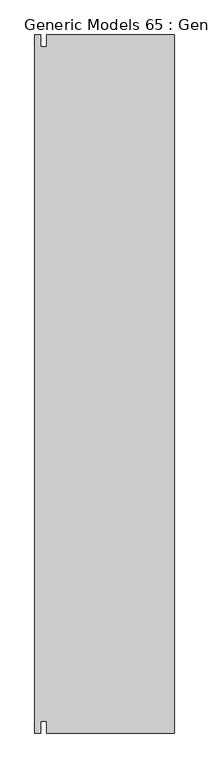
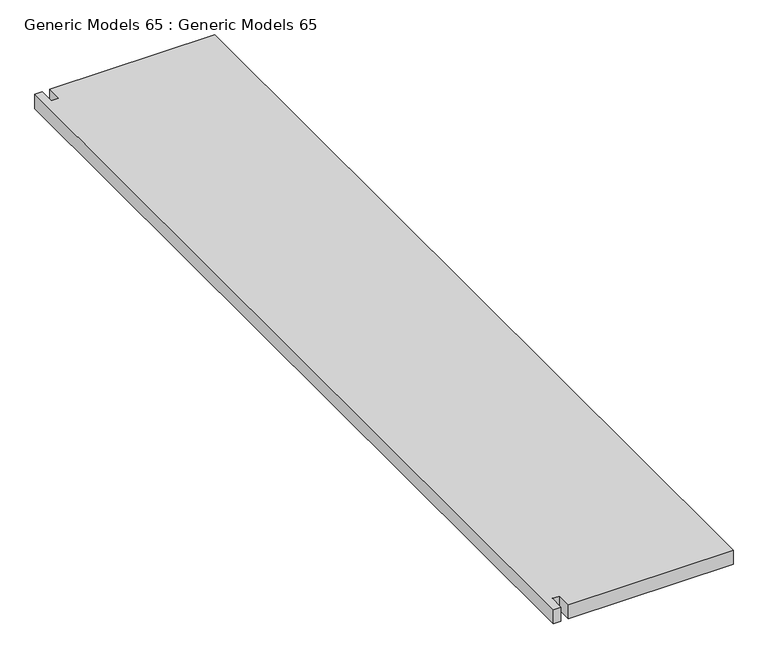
"""IFC4 building model written with IfcOpenShell, lengths in millimetres: proxy geometry, Generic Models 65 : Generic Models 65."""

import ifcopenshell
import ifcopenshell.guid

model = None  # the IFC model being written
_history = None  # IfcOwnerHistory: only IFC2X3 demands one
_inside = {}  # id of a spatial element -> (the spatial element, [elements in it])
_under = {}  # id of a project, library or spatial element -> (it, [spatial elements below it])
_declared = {}  # id of a project -> (the project, [libraries it declares])
_typed = {}  # id of a type object -> (the type object, [elements of that type])
_made_of = {}  # id of a material, layer set ... -> (it, [elements and type objects made of it])


def new_model(schema):
    """Start an empty IFC model of exactly this schema.

    Asked for "IFC4X3", IfcOpenShell would pick the latest addendum, in which some entities
    have other attributes; the version numbers below select the first issue.
    IFC2X3 requires an IfcOwnerHistory on every rooted entity: one is made here for all.
    """
    global model, _history
    if schema == "IFC4X3":
        model = ifcopenshell.file(schema_version=(4, 3, 0, 0))
    else:
        model = ifcopenshell.file(schema=schema)
    _inside.clear()
    _under.clear()
    _declared.clear()
    _typed.clear()
    _made_of.clear()
    _history = None
    if model.schema == "IFC2X3":
        org = make("IfcOrganization", Name="unknown")
        user = make(
            "IfcPersonAndOrganization",
            ThePerson=make("IfcPerson", FamilyName="unknown"),
            TheOrganization=org,
        )
        app = make(
            "IfcApplication",
            ApplicationDeveloper=org,
            Version="unknown",
            ApplicationFullName="unknown",
            ApplicationIdentifier="unknown",
        )
        _history = make(
            "IfcOwnerHistory",
            OwningUser=user,
            OwningApplication=app,
            ChangeAction="ADDED",
            CreationDate=0,
        )
    return model


def make(cls, **values):
    """One entity of the class cls with the attributes given. An attribute that is None is left unset."""
    return model.create_entity(
        cls, **{name: value for name, value in values.items() if value is not None}
    )


def rooted(cls, **values):
    """An entity with a GlobalId (a new one), such as an element, a storey or a relation."""
    return make(cls, GlobalId=ifcopenshell.guid.new(), OwnerHistory=_history, **values)


def si_unit(unit_type, name, prefix=None):
    """IfcSIUnit, for example si_unit("LENGTHUNIT", "METRE", prefix="MILLI")."""
    return make("IfcSIUnit", UnitType=unit_type, Prefix=prefix, Name=name)


def assignment(units):
    """IfcUnitAssignment: the units of a project."""
    return None if units is None else make("IfcUnitAssignment", Units=units)


def point(xyz):
    """IfcCartesianPoint."""
    return None if xyz is None else make("IfcCartesianPoint", Coordinates=xyz)


def direction(xyz):
    """IfcDirection."""
    return None if xyz is None else make("IfcDirection", DirectionRatios=xyz)


def frame(location, z_axis=None, x_axis=None):
    """IfcAxis2Placement3D, a coordinate frame: its origin and axes. An axis left out is left unset."""
    return make(
        "IfcAxis2Placement3D",
        Location=point(location),
        Axis=direction(z_axis),
        RefDirection=direction(x_axis),
    )


def origin():
    """The frame at (0, 0, 0) with its axes left unset."""
    return frame((0.0, 0.0, 0.0))


def place(relative_to, where):
    """IfcLocalPlacement: puts the frame where relative to a parent placement (None: the world)."""
    return make(
        "IfcLocalPlacement", PlacementRelTo=relative_to, RelativePlacement=where
    )


def context(
    kind, dimensions, precision=None, world=None, true_north=None, identifier=None
):
    """IfcGeometricRepresentationContext, for example the 3D "Model" context."""
    return make(
        "IfcGeometricRepresentationContext",
        ContextIdentifier=identifier,
        ContextType=kind,
        CoordinateSpaceDimension=dimensions,
        Precision=precision,
        WorldCoordinateSystem=world,
        TrueNorth=true_north,
    )


def project(units=None, contexts=None):
    """IfcProject with its units and contexts."""
    return rooted(
        "IfcProject",
        Name="project",
        RepresentationContexts=contexts,
        UnitsInContext=assignment(units),
    )


def spatial(cls, under=None, at=None, **own):
    """A site, building, storey or space (cls), placed at a placement, below another one or the project."""
    s = rooted(cls, ObjectPlacement=at, **own)
    if under is not None:
        _under.setdefault(under.id(), (under, []))[1].append(s)
    return s


def faces_of(points, faces, orient=None, outer=None):
    """IfcFace entities. A face is a list of loops; a loop is a list of indices into points, from 0.

    orient and outer hold one flag for each loop. By default every Orientation is true, the
    first loop of a face is its IfcFaceOuterBound and the others are IfcFaceBound.
    """
    made = []
    for i, loops in enumerate(faces):
        bounds = []
        for j, loop in enumerate(loops):
            is_outer = j == 0 if outer is None else outer[i][j]
            bounds.append(
                make(
                    "IfcFaceOuterBound" if is_outer else "IfcFaceBound",
                    Bound=make("IfcPolyLoop", Polygon=[points[k] for k in loop]),
                    Orientation=True if orient is None else orient[i][j],
                )
            )
        made.append(make("IfcFace", Bounds=bounds))
    return made


def faceted_brep(points, faces, orient=None, outer=None, voids=None):
    """IfcFacetedBrep: a solid bounded by flat faces; with voids (closed shells), ...WithVoids."""
    shared = [point(p) for p in points]
    hull = make("IfcClosedShell", CfsFaces=faces_of(shared, faces, orient, outer))
    if voids is None:
        return make("IfcFacetedBrep", Outer=hull)
    return make(
        "IfcFacetedBrepWithVoids",
        Outer=hull,
        Voids=[
            make(cls, CfsFaces=faces_of(shared, fs, o, b)) for cls, fs, o, b in voids
        ],
    )


def shape(context_of_items, identifier, shape_type, items):
    """IfcShapeRepresentation: the items that make up one representation, for example the "Body"."""
    return make(
        "IfcShapeRepresentation",
        ContextOfItems=context_of_items,
        RepresentationIdentifier=identifier,
        RepresentationType=shape_type,
        Items=items,
    )


def source(mapping_origin, context_of_items, identifier, shape_type, items):
    """IfcRepresentationMap: a shape defined once, which mapped items show again and again."""
    return make(
        "IfcRepresentationMap",
        MappingOrigin=mapping_origin,
        MappedRepresentation=shape(context_of_items, identifier, shape_type, items),
    )


def transform(
    local_origin,
    x_axis=None,
    y_axis=None,
    z_axis=None,
    scale=None,
    scale2=None,
    scale3=None,
    uniform=True,
):
    """IfcCartesianTransformationOperator3D, or its non-uniform kind. x_axis, y_axis, z_axis: its Axis1, 2, 3."""
    if uniform:
        return make(
            "IfcCartesianTransformationOperator3D",
            Axis1=direction(x_axis),
            Axis2=direction(y_axis),
            LocalOrigin=point(local_origin),
            Scale=scale,
            Axis3=direction(z_axis),
        )
    return make(
        "IfcCartesianTransformationOperator3DnonUniform",
        Axis1=direction(x_axis),
        Axis2=direction(y_axis),
        LocalOrigin=point(local_origin),
        Scale=scale,
        Axis3=direction(z_axis),
        Scale2=scale2,
        Scale3=scale3,
    )


def mapped(mapping_source, mapping_target):
    """IfcMappedItem: shows the shape of a source again, moved by a transform."""
    return make(
        "IfcMappedItem", MappingSource=mapping_source, MappingTarget=mapping_target
    )


def made_of(thing, what):
    """Note that an element or type object is made of a material, layer set ...; save() writes the relation."""
    if what is not None:
        _made_of.setdefault(what.id(), (what, []))[1].append(thing)
    return thing


def element(
    cls,
    number,
    at=None,
    inside=None,
    cuts=None,
    type_object=None,
    material=None,
    context=None,
    identifier="Body",
    shape_type=None,
    held_by="IfcProductDefinitionShape",
    body=None,
    shapes=None,
    **own,
):
    """One element of the class cls, such as IfcWall. Its Tag is "e" and its number.

    at: its placement. inside: the storey or other place that contains it. cuts: it is an
    opening in that element (IfcRelVoidsElement). A single representation is given by context,
    identifier, shape_type and body (its items); several are given by shapes. held_by: the class
    of the entity that holds the representations. save() writes the other relations.
    """
    e = rooted(cls, Tag="e%d" % number, ObjectPlacement=at, **own)
    if body is not None:
        shapes = [shape(context, identifier, shape_type, body)]
    if shapes is not None:
        e.Representation = make(held_by, Representations=shapes)
    if inside is not None:
        _inside.setdefault(inside.id(), (inside, []))[1].append(e)
    if cuts is not None:
        rooted(
            "IfcRelVoidsElement", RelatingBuildingElement=cuts, RelatedOpeningElement=e
        )
    if type_object is not None:
        _typed.setdefault(type_object.id(), (type_object, []))[1].append(e)
    return made_of(e, material)


def aggregate(whole, parts):
    """IfcRelAggregates: a whole, such as a stair, and the parts it consists of."""
    return rooted("IfcRelAggregates", RelatingObject=whole, RelatedObjects=parts)


def save(model, path):
    """Write the relations noted so far, then the file.

    IfcRelAggregates (storeys below a building ...), IfcRelContainedInSpatialStructure (elements
    in a storey), IfcRelDefinesByType, IfcRelAssociatesMaterial and IfcRelDeclares: one each for
    every whole, place, type object, material and project.
    """
    for whole, parts in _under.values():
        aggregate(whole, parts)
    for where, things in _inside.values():
        rooted(
            "IfcRelContainedInSpatialStructure",
            RelatedElements=things,
            RelatingStructure=where,
        )
    for kind, things in _typed.values():
        rooted("IfcRelDefinesByType", RelatedObjects=things, RelatingType=kind)
    for what, things in _made_of.values():
        rooted("IfcRelAssociatesMaterial", RelatedObjects=things, RelatingMaterial=what)
    for by, libraries in _declared.values():
        rooted("IfcRelDeclares", RelatingContext=by, RelatedDefinitions=libraries)
    model.write(path)


def generic_models_65_generic_models_65_03acef7a(model_context):
    return source(origin(), model_context, "Body", "Brep", [
        faceted_brep([(3797.3, 2514.6, 4343.4), (3797.3, 990.6, 4343.4), (3810.0, 990.6, 4343.4), (3810.0, 1016.0, 4343.4), (3822.7, 1016.0, 4343.4), (3822.7, 990.6, 4343.4), (4102.1, 990.6, 4343.4), (4102.1, 1016.0, 4343.4), (4102.1, 2489.2, 4343.4), (4102.1, 2514.6, 4343.4), (3822.7, 2514.6, 4343.4), (3822.7, 2489.2, 4343.4), (3810.0, 2489.2, 4343.4), (3810.0, 2514.6, 4343.4), (4102.1, 2514.6, 4318.0), (4102.1, 990.6, 4318.0), (3822.7, 990.6, 4318.0), (3822.7, 1016.0, 4318.0), (3810.0, 1016.0, 4318.0), (3810.0, 990.6, 4318.0), (3797.3, 990.6, 4318.0), (3797.3, 2514.6, 4318.0), (3810.0, 2514.6, 4318.0), (3810.0, 2489.2, 4318.0), (3822.7, 2489.2, 4318.0), (3822.7, 2514.6, 4318.0)], [[[0, 1, 2, 3, 4, 5, 6, 7, 8, 9, 10, 11, 12, 13]], [[14, 15, 16, 17, 18, 19, 20, 21, 22, 23, 24, 25]], [[9, 14, 25, 10]], [[1, 0, 21, 20]], [[1, 20, 19, 2]], [[9, 8, 7, 6, 15, 14]], [[4, 17, 16, 5]], [[18, 3, 2, 19]], [[17, 4, 3, 18]], [[15, 6, 5, 16]], [[12, 23, 22, 13]], [[24, 11, 10, 25]], [[23, 12, 11, 24]], [[21, 0, 13, 22]]]),
    ])


if __name__ == "__main__":
    model = new_model("IFC4")
    model_context = context("Model", 3, world=origin())
    ifc_project = project(units=[si_unit("LENGTHUNIT", "METRE", prefix="MILLI")], contexts=[model_context])
    site = spatial("IfcSite", under=ifc_project)
    building = spatial("IfcBuilding", under=site)
    placement = place(None, origin())
    generic_models_65_generic_models_65_shape = generic_models_65_generic_models_65_03acef7a(model_context)
    element("IfcBuildingElementProxy", 1, Name="Generic Models 65 : Generic Models 65", ObjectType="Generic Models 65 : Generic Models 65", at=placement, inside=building, context=model_context, shape_type="MappedRepresentation", body=[
        mapped(generic_models_65_generic_models_65_shape, transform((0.0, 0.0, 0.0), x_axis=(1.0, 0.0, 0.0), y_axis=(0.0, 1.0, 0.0), z_axis=(0.0, 0.0, 1.0))),
    ])
    save(model, "model.ifc")
